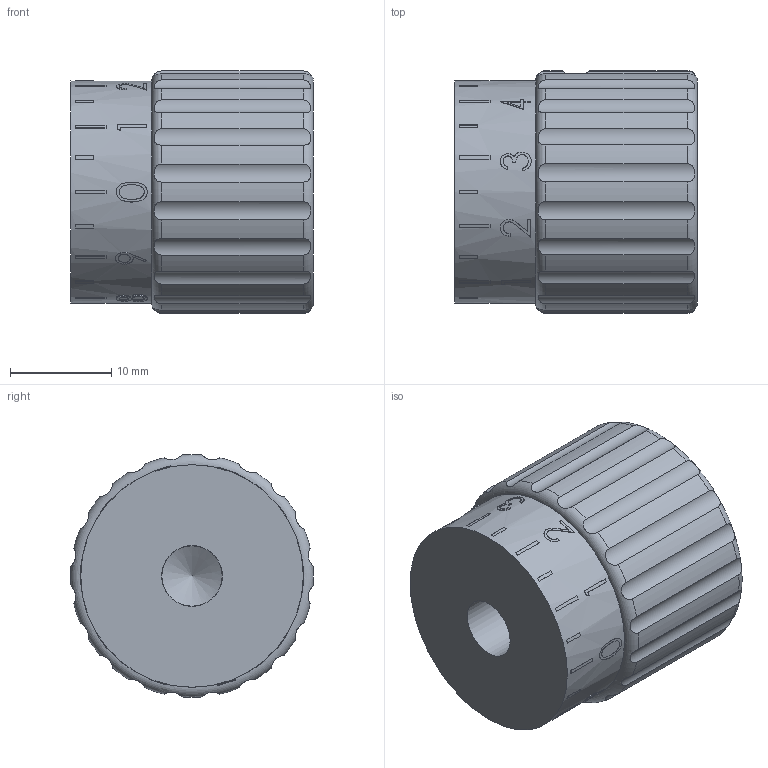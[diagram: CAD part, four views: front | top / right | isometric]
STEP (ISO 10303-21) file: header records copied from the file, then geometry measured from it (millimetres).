
FILE_DESCRIPTION( ( 'STEP AP203' ), '1' );
FILE_NAME( 'C:/Temp/Ganter_Step_05_03_2020/data/1_4/gn_436_1/gn_436_1_s/Stainless Steel-Control knob GN 436.1-24-B6-S-MT.stp', '2020-03-05T10:48:47', ( 'License CC BY-ND 4.0' ), ( 'CADENAS' ), ' ', 'PARTsolutions', ' ' );
FILE_SCHEMA( ( 'CONFIG_CONTROL_DESIGN' ) );
Length unit declared in the file: millimetre
Products named in the file (1): _Stainless Steel-Control knob GN 436.1-24-B6-S-MT
Bounding box: 24 x 24 x 24 mm (x, y, z)
Volume: 9515.3 mm3; surface area: 3062.2 mm2
Topology: 1 solids, 1 shells, 308 faces, 802 edges, 534 vertices
Faces by surface type: cylinder 155, plane 148, cone 3, torus 2
Full cylindrical faces by diameter (mm): 3.242 x2, 5.96 x1, 6 x1, 22 x1
Entity records: 10360 total; most frequent: CARTESIAN_POINT 2835, ORIENTED_EDGE 1566, DIRECTION 1522, EDGE_CURVE 783, AXIS2_PLACEMENT_3D 558, VERTEX_POINT 527, LINE 406, VECTOR 406
